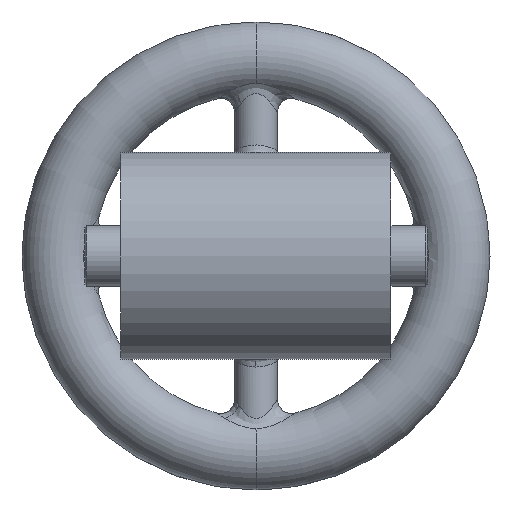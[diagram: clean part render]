
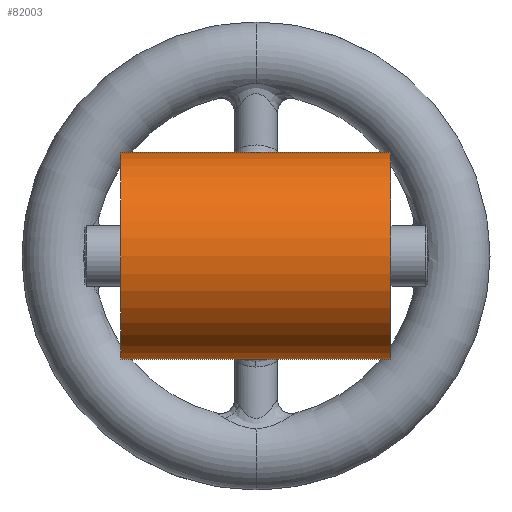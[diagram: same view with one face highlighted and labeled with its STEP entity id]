
A CAD part, front view. The second image highlights one B-rep face of the part: STEP entity #82003.
In plain terms, the highlighted cylindrical face has radius 36.513 mm (diameter 73.025 mm), a partial arc.
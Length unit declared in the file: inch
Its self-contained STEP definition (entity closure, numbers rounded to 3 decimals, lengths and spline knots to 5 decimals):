
#950 = EDGE_CURVE ( 'NONE', #25208, #91765, #34791, .T. ) ;
#6412 = LINE ( 'NONE', #13665, #10768 ) ;
#6785 = CARTESIAN_POINT ( 'NONE',  ( 5.94086, 0., -1.4375 ) ) ;
#10339 = EDGE_CURVE ( 'NONE', #46960, #25208, #6412, .T. ) ;
#10768 = VECTOR ( 'NONE', #60401, 39.37008 ) ;
#11846 = EDGE_CURVE ( 'NONE', #95393, #57023, #28076, .T. ) ;
#13665 = CARTESIAN_POINT ( 'NONE',  ( 5.94086, 0., 1.4375 ) ) ;
#19550 = ORIENTED_EDGE ( 'NONE', *, *, #68868, .F. ) ;
#20990 = EDGE_CURVE ( 'NONE', #91646, #95393, #25221, .T. ) ;
#21073 = VECTOR ( 'NONE', #79259, 39.37008 ) ;
#21727 = CYLINDRICAL_SURFACE ( 'NONE', #73120, 1.4375 ) ;
#22379 = AXIS2_PLACEMENT_3D ( 'NONE', #32039, #23352, #52843 ) ;
#22462 = ORIENTED_EDGE ( 'NONE', *, *, #11846, .F. ) ;
#23352 = DIRECTION ( 'NONE',  ( -1., 0., 0. ) ) ;
#23996 = ORIENTED_EDGE ( 'NONE', *, *, #20990, .F. ) ;
#25208 = VERTEX_POINT ( 'NONE', #31761 ) ;
#25221 = LINE ( 'NONE', #31521, #78788 ) ;
#28040 = DIRECTION ( 'NONE',  ( -1., 0., 0. ) ) ;
#28076 = LINE ( 'NONE', #6785, #86249 ) ;
#28673 = CIRCLE ( 'NONE', #93506, 1.4375 ) ;
#29791 = CARTESIAN_POINT ( 'NONE',  ( 1.875, 0., 0. ) ) ;
#30401 = CARTESIAN_POINT ( 'NONE',  ( 1.875, 0., 1.4375 ) ) ;
#31348 = EDGE_LOOP ( 'NONE', ( #23996, #72872, #94686, #62142, #19550, #22462 ) ) ;
#31521 = CARTESIAN_POINT ( 'NONE',  ( 5.94086, 0., -1.4375 ) ) ;
#31761 = CARTESIAN_POINT ( 'NONE',  ( 0., 0., 1.4375 ) ) ;
#32039 = CARTESIAN_POINT ( 'NONE',  ( -1.875, 0., 0. ) ) ;
#34730 = CIRCLE ( 'NONE', #22379, 1.4375 ) ;
#34791 = LINE ( 'NONE', #64760, #21073 ) ;
#36898 = CARTESIAN_POINT ( 'NONE',  ( -1.875, 0., 1.4375 ) ) ;
#37622 = CARTESIAN_POINT ( 'NONE',  ( 0., 0., -1.4375 ) ) ;
#42538 = FACE_OUTER_BOUND ( 'NONE', #31348, .T. ) ;
#43058 = DIRECTION ( 'NONE',  ( -1., 0., 0. ) ) ;
#45977 = EDGE_CURVE ( 'NONE', #46960, #91646, #28673, .T. ) ;
#46513 = DIRECTION ( 'NONE',  ( -1., 0., 0. ) ) ;
#46960 = VERTEX_POINT ( 'NONE', #30401 ) ;
#52843 = DIRECTION ( 'NONE',  ( 0., 0., 1. ) ) ;
#55482 = CARTESIAN_POINT ( 'NONE',  ( -1.875, 0., -1.4375 ) ) ;
#57023 = VERTEX_POINT ( 'NONE', #55482 ) ;
#59284 = DIRECTION ( 'NONE',  ( 1., 0., 0. ) ) ;
#60401 = DIRECTION ( 'NONE',  ( -1., 0., 0. ) ) ;
#62142 = ORIENTED_EDGE ( 'NONE', *, *, #950, .T. ) ;
#64760 = CARTESIAN_POINT ( 'NONE',  ( 5.94086, 0., 1.4375 ) ) ;
#68868 = EDGE_CURVE ( 'NONE', #57023, #91765, #34730, .T. ) ;
#72872 = ORIENTED_EDGE ( 'NONE', *, *, #45977, .F. ) ;
#73120 = AXIS2_PLACEMENT_3D ( 'NONE', #94223, #28040, #80718 ) ;
#75191 = CARTESIAN_POINT ( 'NONE',  ( 1.875, 0., -1.4375 ) ) ;
#78788 = VECTOR ( 'NONE', #46513, 39.37008 ) ;
#79259 = DIRECTION ( 'NONE',  ( -1., 0., 0. ) ) ;
#80718 = DIRECTION ( 'NONE',  ( 0., 0., 1. ) ) ;
#82003 = ADVANCED_FACE ( 'NONE', ( #42538 ), #21727, .T. ) ;
#86249 = VECTOR ( 'NONE', #43058, 39.37008 ) ;
#89227 = DIRECTION ( 'NONE',  ( 0., 0., 1. ) ) ;
#91646 = VERTEX_POINT ( 'NONE', #75191 ) ;
#91765 = VERTEX_POINT ( 'NONE', #36898 ) ;
#93506 = AXIS2_PLACEMENT_3D ( 'NONE', #29791, #59284, #89227 ) ;
#94223 = CARTESIAN_POINT ( 'NONE',  ( 5.94086, 0., 0. ) ) ;
#94686 = ORIENTED_EDGE ( 'NONE', *, *, #10339, .T. ) ;
#95393 = VERTEX_POINT ( 'NONE', #37622 ) ;
